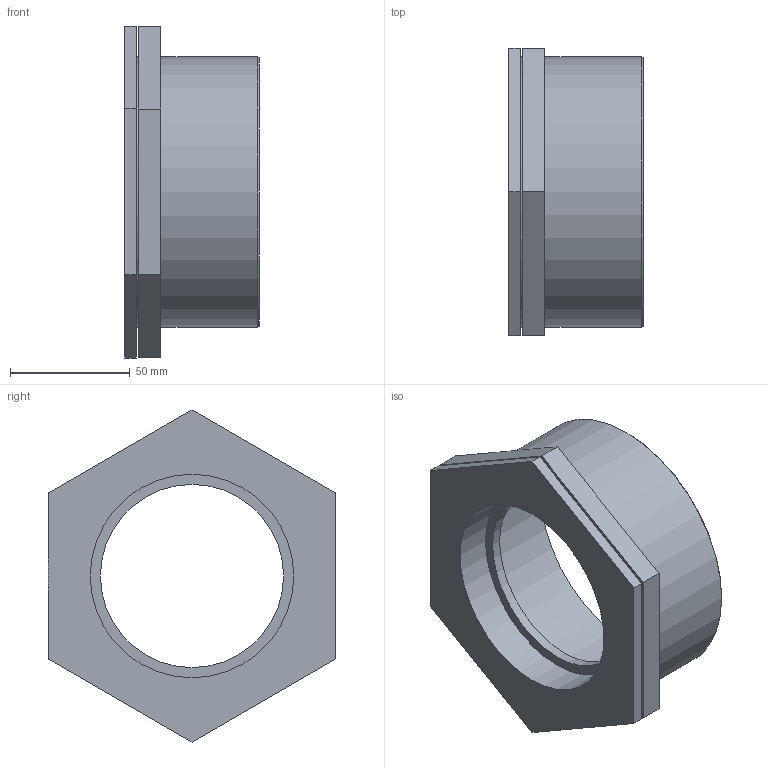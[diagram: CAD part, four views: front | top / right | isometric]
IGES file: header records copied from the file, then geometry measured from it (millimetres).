
Global section: file name: 050207040030_0502070400300A.ipt; native system: Autodesk Inventor 2015; preprocessor: unknown; author: KIM; date: 20170618.093153; units: millimetre
Bounding box: 56 x 120 x 138.56 mm (x, y, z)
Volume: 180014.1 mm3; surface area: 62105.6 mm2
Topology: 1 solids, 1 shells, 28 faces, 66 edges, 46 vertices
Faces by surface type: plane 20, revolution 4, cylinder 3, cone 1
Full cylindrical faces by diameter (mm): 93.419 x1, 113.03 x2
